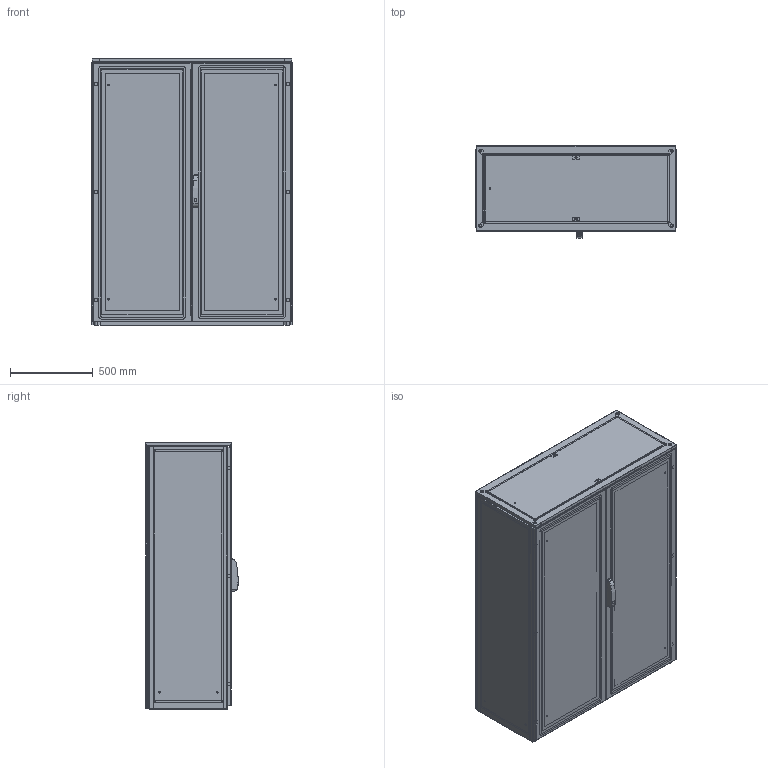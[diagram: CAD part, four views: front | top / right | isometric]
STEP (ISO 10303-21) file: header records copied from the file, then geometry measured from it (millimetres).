
FILE_DESCRIPTION(/* description */ ('STEP AP214'),/* implementation_level */ '2;1');
FILE_NAME(/* name */ 'ENUX121605PR -LOD350',/* time_stamp */ '2025-10-06T09:05:31+02:00',/* author */ ('License CC BY-ND 4.0'),/* organization */ ('CADENAS'),/* preprocessor_version */ 'ST-DEVELOPER v19.3',/* originating_system */ 'PARTsolutions',/* authorisation */ ' ');
FILE_SCHEMA (('AUTOMOTIVE_DESIGN {1 0 10303 214 3 1 1}'));
Length unit declared in the file: millimetre
Products named in the file (11): ENUX121605PR  -LOD350; ENUX121605PR  -LOD3501; ENUX121605PR  -LOD3507; ENUX121605PR  -LOD3502; ENUX121605PR  -LOD35011; ENUX121605PR  -LOD3503; ENUX121605PR  -LOD3508; ENUX121605PR  -LOD3505; ENUX121605PR  -LOD3504; ENUX121605PR  -LOD35010; ENUX121605PR  -LOD3509
Assembly tree (17 placements, depth 2):
  ENUX121605PR  -LOD350
    ENUX121605PR  -LOD3501
    ENUX121605PR  -LOD3507  x2
    ENUX121605PR  -LOD3502
    ENUX121605PR  -LOD35011
    ENUX121605PR  -LOD3503
    ENUX121605PR  -LOD3508
    ENUX121605PR  -LOD3505
    ENUX121605PR  -LOD3504
    ENUX121605PR  -LOD35010  x4
    ENUX121605PR  -LOD3509  x4
Bounding box: 1212 x 557 x 1608.5 mm (x, y, z)
Volume: 25423553 mm3; surface area: 19984821.6 mm2
Topology: 17 solids, 24 shells, 1504 faces, 4051 edges, 2648 vertices
Faces by surface type: plane 902, cylinder 552, torus 30, cone 12, sphere 8
Full cylindrical faces by diameter (mm): 6 x15, 9 x13, 12 x4, 14 x2, 17 x2, 28 x2
Entity records: 36158 total; most frequent: CARTESIAN_POINT 6621, DIRECTION 6139, ORIENTED_EDGE 6046, EDGE_CURVE 3023, AXIS2_PLACEMENT_3D 2049, LINE 2041, VECTOR 2041, VERTEX_POINT 1998
